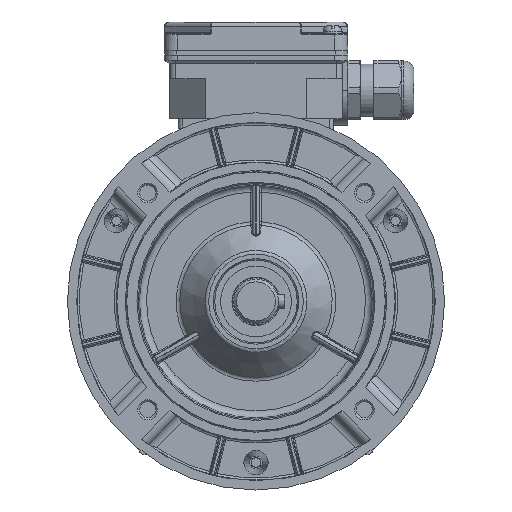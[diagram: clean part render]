
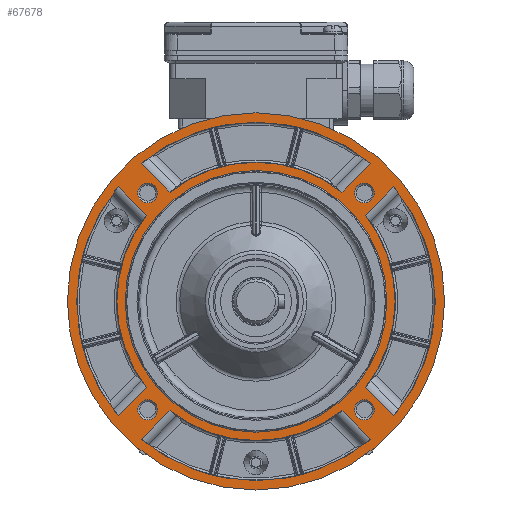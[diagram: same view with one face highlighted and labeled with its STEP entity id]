
A CAD part, left-side view. The second image highlights one B-rep face of the part: STEP entity #67678.
In plain terms, the highlighted planar face has unit normal (-1, 0, 0).
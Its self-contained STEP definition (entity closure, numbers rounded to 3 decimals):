
#5858=LINE('',#103790,#9162);
#5859=LINE('',#103795,#9163);
#5860=LINE('',#103801,#9164);
#5861=LINE('',#103805,#9165);
#5862=LINE('',#103806,#9166);
#5863=LINE('',#103811,#9167);
#5864=LINE('',#103814,#9168);
#5865=LINE('',#103819,#9169);
#9162=VECTOR('',#82154,1000.);
#9163=VECTOR('',#82157,1000.);
#9164=VECTOR('',#82162,1000.);
#9165=VECTOR('',#82165,1000.);
#9166=VECTOR('',#82166,1000.);
#9167=VECTOR('',#82169,1000.);
#9168=VECTOR('',#82172,1000.);
#9169=VECTOR('',#82175,1000.);
#19242=ORIENTED_EDGE('',*,*,#29631,.T.);
#19243=ORIENTED_EDGE('',*,*,#29632,.T.);
#19244=ORIENTED_EDGE('',*,*,#29633,.T.);
#19245=ORIENTED_EDGE('',*,*,#29634,.T.);
#19246=ORIENTED_EDGE('',*,*,#29635,.T.);
#19247=ORIENTED_EDGE('',*,*,#29440,.T.);
#19248=ORIENTED_EDGE('',*,*,#29636,.T.);
#19249=ORIENTED_EDGE('',*,*,#29637,.T.);
#19250=ORIENTED_EDGE('',*,*,#29638,.F.);
#19251=ORIENTED_EDGE('',*,*,#29639,.F.);
#19252=ORIENTED_EDGE('',*,*,#29640,.T.);
#19253=ORIENTED_EDGE('',*,*,#29641,.F.);
#19254=ORIENTED_EDGE('',*,*,#29642,.F.);
#19255=ORIENTED_EDGE('',*,*,#29643,.T.);
#19256=ORIENTED_EDGE('',*,*,#29644,.T.);
#19257=ORIENTED_EDGE('',*,*,#29645,.T.);
#19258=ORIENTED_EDGE('',*,*,#29646,.F.);
#19259=ORIENTED_EDGE('',*,*,#29647,.F.);
#19260=ORIENTED_EDGE('',*,*,#29648,.T.);
#19261=ORIENTED_EDGE('',*,*,#29649,.T.);
#19262=ORIENTED_EDGE('',*,*,#29650,.F.);
#19263=ORIENTED_EDGE('',*,*,#29651,.F.);
#29440=EDGE_CURVE('',#35420,#35420,#38669,.T.);
#29631=EDGE_CURVE('',#35536,#35536,#38725,.F.);
#29632=EDGE_CURVE('',#35537,#35537,#38726,.F.);
#29633=EDGE_CURVE('',#35538,#35538,#38727,.F.);
#29634=EDGE_CURVE('',#35539,#35539,#38728,.F.);
#29635=EDGE_CURVE('',#35540,#35540,#38729,.F.);
#29636=EDGE_CURVE('',#35541,#35542,#5858,.T.);
#29637=EDGE_CURVE('',#35542,#35543,#38730,.T.);
#29638=EDGE_CURVE('',#35544,#35543,#5859,.T.);
#29639=EDGE_CURVE('',#35541,#35544,#38731,.T.);
#29640=EDGE_CURVE('',#35545,#35546,#38732,.T.);
#29641=EDGE_CURVE('',#35547,#35546,#5860,.T.);
#29642=EDGE_CURVE('',#35548,#35547,#38733,.T.);
#29643=EDGE_CURVE('',#35548,#35545,#5861,.T.);
#29644=EDGE_CURVE('',#35549,#35550,#5862,.T.);
#29645=EDGE_CURVE('',#35550,#35551,#38734,.T.);
#29646=EDGE_CURVE('',#35552,#35551,#5863,.T.);
#29647=EDGE_CURVE('',#35549,#35552,#38735,.T.);
#29648=EDGE_CURVE('',#35553,#35554,#5864,.T.);
#29649=EDGE_CURVE('',#35554,#35555,#38736,.T.);
#29650=EDGE_CURVE('',#35556,#35555,#5865,.T.);
#29651=EDGE_CURVE('',#35553,#35556,#38737,.T.);
#35420=VERTEX_POINT('',#103104);
#35536=VERTEX_POINT('',#103781);
#35537=VERTEX_POINT('',#103783);
#35538=VERTEX_POINT('',#103785);
#35539=VERTEX_POINT('',#103787);
#35540=VERTEX_POINT('',#103789);
#35541=VERTEX_POINT('',#103791);
#35542=VERTEX_POINT('',#103792);
#35543=VERTEX_POINT('',#103794);
#35544=VERTEX_POINT('',#103796);
#35545=VERTEX_POINT('',#103799);
#35546=VERTEX_POINT('',#103800);
#35547=VERTEX_POINT('',#103802);
#35548=VERTEX_POINT('',#103804);
#35549=VERTEX_POINT('',#103807);
#35550=VERTEX_POINT('',#103808);
#35551=VERTEX_POINT('',#103810);
#35552=VERTEX_POINT('',#103812);
#35553=VERTEX_POINT('',#103815);
#35554=VERTEX_POINT('',#103816);
#35555=VERTEX_POINT('',#103818);
#35556=VERTEX_POINT('',#103820);
#38669=CIRCLE('',#71725,80.);
#38725=CIRCLE('',#71865,55.5);
#38726=CIRCLE('',#71866,4.2);
#38727=CIRCLE('',#71867,4.2);
#38728=CIRCLE('',#71868,4.2);
#38729=CIRCLE('',#71869,4.2);
#38730=CIRCLE('',#71870,59.);
#38731=CIRCLE('',#71871,76.);
#38732=CIRCLE('',#71872,59.);
#38733=CIRCLE('',#71873,76.);
#38734=CIRCLE('',#71874,59.);
#38735=CIRCLE('',#71875,76.);
#38736=CIRCLE('',#71876,59.);
#38737=CIRCLE('',#71877,76.);
#41510=EDGE_LOOP('',(#19242));
#41511=EDGE_LOOP('',(#19243));
#41512=EDGE_LOOP('',(#19244));
#41513=EDGE_LOOP('',(#19245));
#41514=EDGE_LOOP('',(#19246));
#41515=EDGE_LOOP('',(#19247));
#41516=EDGE_LOOP('',(#19248,#19249,#19250,#19251));
#41517=EDGE_LOOP('',(#19252,#19253,#19254,#19255));
#41518=EDGE_LOOP('',(#19256,#19257,#19258,#19259));
#41519=EDGE_LOOP('',(#19260,#19261,#19262,#19263));
#44866=FACE_BOUND('',#41510,.T.);
#44867=FACE_BOUND('',#41511,.T.);
#44868=FACE_BOUND('',#41512,.T.);
#44869=FACE_BOUND('',#41513,.T.);
#44870=FACE_BOUND('',#41514,.T.);
#44871=FACE_BOUND('',#41515,.T.);
#44872=FACE_BOUND('',#41516,.T.);
#44873=FACE_BOUND('',#41517,.T.);
#44874=FACE_BOUND('',#41518,.T.);
#44875=FACE_BOUND('',#41519,.T.);
#47077=PLANE('',#71864);
#67678=ADVANCED_FACE('',(#44866,#44867,#44868,#44869,#44870,#44871,#44872,
#44873,#44874,#44875),#47077,.T.);
#71725=AXIS2_PLACEMENT_3D('',#103103,#81822,#81823);
#71864=AXIS2_PLACEMENT_3D('',#103779,#82142,#82143);
#71865=AXIS2_PLACEMENT_3D('',#103780,#82144,#82145);
#71866=AXIS2_PLACEMENT_3D('',#103782,#82146,#82147);
#71867=AXIS2_PLACEMENT_3D('',#103784,#82148,#82149);
#71868=AXIS2_PLACEMENT_3D('',#103786,#82150,#82151);
#71869=AXIS2_PLACEMENT_3D('',#103788,#82152,#82153);
#71870=AXIS2_PLACEMENT_3D('',#103793,#82155,#82156);
#71871=AXIS2_PLACEMENT_3D('',#103797,#82158,#82159);
#71872=AXIS2_PLACEMENT_3D('',#103798,#82160,#82161);
#71873=AXIS2_PLACEMENT_3D('',#103803,#82163,#82164);
#71874=AXIS2_PLACEMENT_3D('',#103809,#82167,#82168);
#71875=AXIS2_PLACEMENT_3D('',#103813,#82170,#82171);
#71876=AXIS2_PLACEMENT_3D('',#103817,#82173,#82174);
#71877=AXIS2_PLACEMENT_3D('',#103821,#82176,#82177);
#81822=DIRECTION('',(-1.,0.,0.));
#81823=DIRECTION('',(0.,1.,0.));
#82142=DIRECTION('',(-1.,0.,0.));
#82143=DIRECTION('',(0.,-1.,0.));
#82144=DIRECTION('',(-1.,0.,0.));
#82145=DIRECTION('',(0.,-1.,0.));
#82146=DIRECTION('',(-1.,0.,0.));
#82147=DIRECTION('',(0.,-1.,0.));
#82148=DIRECTION('',(-1.,0.,0.));
#82149=DIRECTION('',(0.,-1.,0.));
#82150=DIRECTION('',(-1.,0.,0.));
#82151=DIRECTION('',(0.,-1.,0.));
#82152=DIRECTION('',(-1.,0.,0.));
#82153=DIRECTION('',(0.,-1.,0.));
#82154=DIRECTION('',(0.,0.707,0.707));
#82155=DIRECTION('',(-1.,0.,0.));
#82156=DIRECTION('',(0.,0.,1.));
#82157=DIRECTION('',(0.,0.707,-0.707));
#82158=DIRECTION('',(-1.,0.,0.));
#82159=DIRECTION('',(0.,0.,1.));
#82160=DIRECTION('',(-1.,0.,0.));
#82161=DIRECTION('',(0.,0.,1.));
#82162=DIRECTION('',(0.,0.707,0.707));
#82163=DIRECTION('',(-1.,0.,0.));
#82164=DIRECTION('',(0.,0.,1.));
#82165=DIRECTION('',(0.,-0.707,0.707));
#82166=DIRECTION('',(0.,0.707,-0.707));
#82167=DIRECTION('',(-1.,0.,0.));
#82168=DIRECTION('',(0.,0.,1.));
#82169=DIRECTION('',(0.,-0.707,-0.707));
#82170=DIRECTION('',(-1.,0.,0.));
#82171=DIRECTION('',(0.,0.,1.));
#82172=DIRECTION('',(0.,-0.707,-0.707));
#82173=DIRECTION('',(-1.,0.,0.));
#82174=DIRECTION('',(0.,0.,1.));
#82175=DIRECTION('',(0.,-0.707,0.707));
#82176=DIRECTION('',(-1.,0.,0.));
#82177=DIRECTION('',(0.,0.,1.));
#103103=CARTESIAN_POINT('',(-44.3,0.,0.));
#103104=CARTESIAN_POINT('',(-44.3,80.,0.));
#103779=CARTESIAN_POINT('',(-44.3,0.,0.));
#103780=CARTESIAN_POINT('',(-44.3,0.,0.));
#103781=CARTESIAN_POINT('',(-44.3,-55.5,0.));
#103782=CARTESIAN_POINT('',(-44.3,-45.962,-45.962));
#103783=CARTESIAN_POINT('',(-44.3,-50.162,-45.962));
#103784=CARTESIAN_POINT('',(-44.3,-45.962,45.962));
#103785=CARTESIAN_POINT('',(-44.3,-50.162,45.962));
#103786=CARTESIAN_POINT('',(-44.3,45.962,45.962));
#103787=CARTESIAN_POINT('',(-44.3,41.762,45.962));
#103788=CARTESIAN_POINT('',(-44.3,45.962,-45.962));
#103789=CARTESIAN_POINT('',(-44.3,41.762,-45.962));
#103790=CARTESIAN_POINT('',(-44.3,-70.057,-60.157));
#103791=CARTESIAN_POINT('',(-44.3,-58.461,-48.562));
#103792=CARTESIAN_POINT('',(-44.3,-46.374,-36.475));
#103793=CARTESIAN_POINT('',(-44.3,0.,0.));
#103794=CARTESIAN_POINT('',(-44.3,-46.374,36.475));
#103795=CARTESIAN_POINT('',(-44.3,-70.057,60.157));
#103796=CARTESIAN_POINT('',(-44.3,-58.461,48.562));
#103797=CARTESIAN_POINT('',(-44.3,0.,0.));
#103798=CARTESIAN_POINT('',(-44.3,0.,0.));
#103799=CARTESIAN_POINT('',(-44.3,36.475,-46.374));
#103800=CARTESIAN_POINT('',(-44.3,-36.475,-46.374));
#103801=CARTESIAN_POINT('',(-44.3,-60.157,-70.057));
#103802=CARTESIAN_POINT('',(-44.3,-48.562,-58.461));
#103803=CARTESIAN_POINT('',(-44.3,0.,0.));
#103804=CARTESIAN_POINT('',(-44.3,48.562,-58.461));
#103805=CARTESIAN_POINT('',(-44.3,60.157,-70.057));
#103806=CARTESIAN_POINT('',(-44.3,-60.157,70.057));
#103807=CARTESIAN_POINT('',(-44.3,-48.562,58.461));
#103808=CARTESIAN_POINT('',(-44.3,-36.475,46.374));
#103809=CARTESIAN_POINT('',(-44.3,0.,0.));
#103810=CARTESIAN_POINT('',(-44.3,36.475,46.374));
#103811=CARTESIAN_POINT('',(-44.3,60.157,70.057));
#103812=CARTESIAN_POINT('',(-44.3,48.562,58.461));
#103813=CARTESIAN_POINT('',(-44.3,0.,0.));
#103814=CARTESIAN_POINT('',(-44.3,70.057,60.157));
#103815=CARTESIAN_POINT('',(-44.3,58.461,48.562));
#103816=CARTESIAN_POINT('',(-44.3,46.374,36.475));
#103817=CARTESIAN_POINT('',(-44.3,0.,0.));
#103818=CARTESIAN_POINT('',(-44.3,46.374,-36.475));
#103819=CARTESIAN_POINT('',(-44.3,70.057,-60.157));
#103820=CARTESIAN_POINT('',(-44.3,58.461,-48.562));
#103821=CARTESIAN_POINT('',(-44.3,0.,0.));
